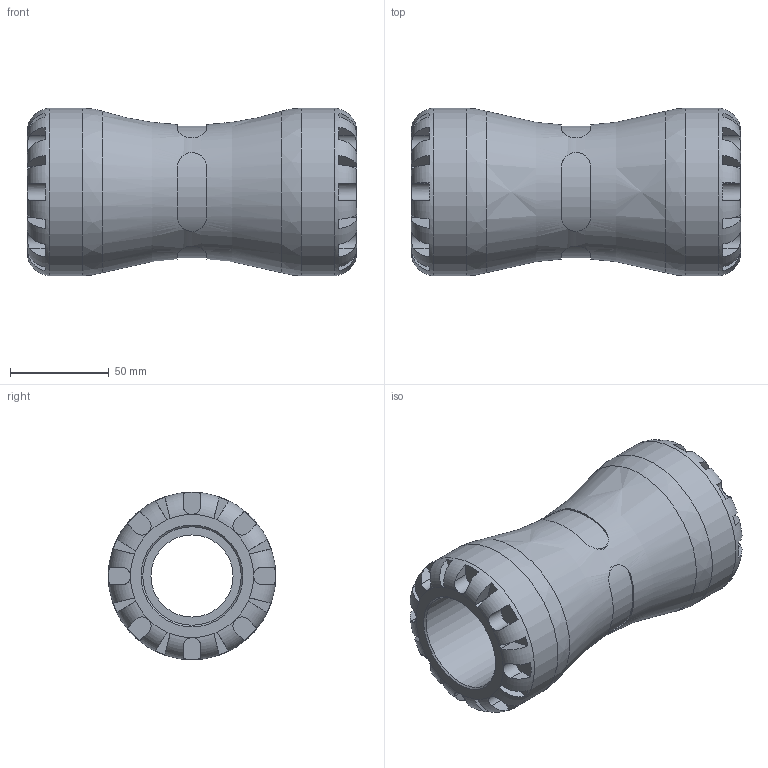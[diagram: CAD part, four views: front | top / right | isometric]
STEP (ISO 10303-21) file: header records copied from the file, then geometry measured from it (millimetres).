
FILE_DESCRIPTION(/* description */ ('PLASSON G-PLASS COUPLING 50X50'),/* implementation_level */ '2;1');
FILE_NAME(/* name */ 'C:\Dropbox\KIMPROJECTS-Inventor 2019\99-16-3568-Processing\S1\150100\stp\150100050.stp',/* time_stamp */ '2023-10-17T19:13:24+03:00',/* author */ ('KIM'),/* organization */ (''),/* preprocessor_version */ 'ST-DEVELOPER v17.2',/* originating_system */ 'Autodesk Inventor 2019',/* authorisation */ '');
FILE_SCHEMA (('AUTOMOTIVE_DESIGN { 1 0 10303 214 3 1 1 }'));
Length unit declared in the file: millimetre
Products named in the file (1): 150100050
Bounding box: 167 x 85 x 85 mm (x, y, z)
Volume: 452192 mm3; surface area: 78381.4 mm2
Topology: 1 solids, 1 shells, 164 faces, 431 edges, 274 vertices
Faces by surface type: plane 108, cylinder 49, torus 3, cone 2, bspline 2
Full cylindrical faces by diameter (mm): 41.667 x1, 50 x2, 85 x2
Entity records: 6544 total; most frequent: CARTESIAN_POINT 2506, ORIENTED_EDGE 862, DIRECTION 813, EDGE_CURVE 431, AXIS2_PLACEMENT_3D 331, VERTEX_POINT 274, EDGE_LOOP 171, CIRCLE 168
